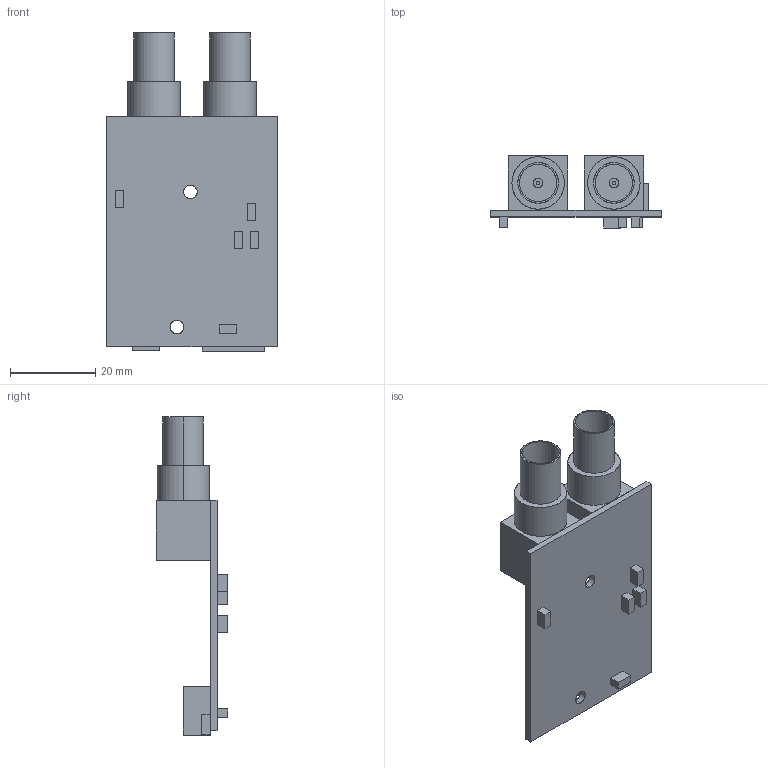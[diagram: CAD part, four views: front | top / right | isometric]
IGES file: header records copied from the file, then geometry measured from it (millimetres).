
Start section: SolidWorks IGES file using analytic representation for surfaces
Global section: file name: F:\DV 3D PCBs\HD-SDI PCB 191215\release files 191215\Assy PCB HD-SDI Black Magic Design BMDPCB416B1.IGS; native system: SolidWorks 2019; preprocessor: SolidWorks 2019; author: MH2; date: 191215.154938; units: inch
Bounding box: 40.13 x 16.83 x 74.71 mm (x, y, z)
Surface area: 8746 mm2 (no closed solid volume)
Topology: 0 solids, 0 shells, 87 faces, 1056 edges, 1056 vertices
Faces by surface type: bspline 63, revolution 24
